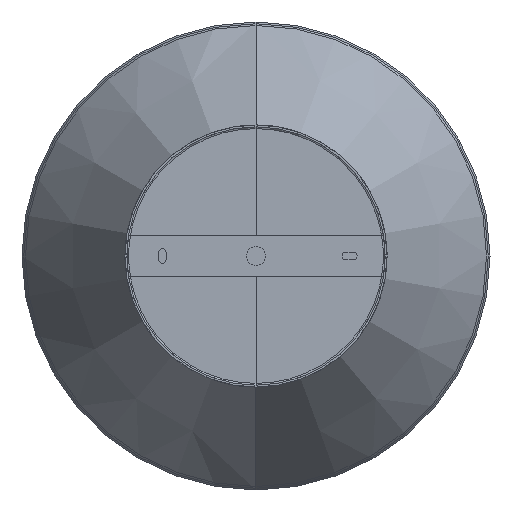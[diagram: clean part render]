
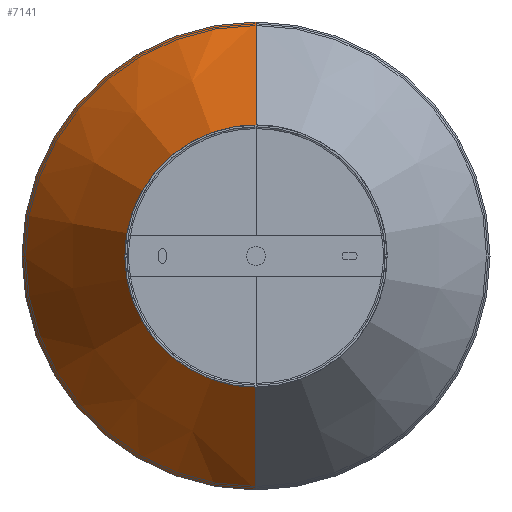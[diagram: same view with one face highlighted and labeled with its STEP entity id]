
A CAD part, front view. The second image highlights one B-rep face of the part: STEP entity #7141.
In plain terms, the highlighted conical face has half-angle 30.865 degrees and reference radius 33.019 mm.
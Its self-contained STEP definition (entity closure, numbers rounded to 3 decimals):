
#83=CONICAL_SURFACE('',#7702,33.019,0.539);
#906=FACE_OUTER_BOUND('',#1287,.T.);
#1287=EDGE_LOOP('',(#6692,#6693,#6694,#6695));
#1481=CIRCLE('',#7699,125.);
#1483=CIRCLE('',#7703,22.799);
#2194=LINE('',#12380,#2901);
#2195=LINE('',#12383,#2902);
#2901=VECTOR('',#9509,304.8);
#2902=VECTOR('',#9512,304.8);
#3579=VERTEX_POINT('',#12371);
#3580=VERTEX_POINT('',#12373);
#3581=VERTEX_POINT('',#12379);
#3582=VERTEX_POINT('',#12381);
#4617=EDGE_CURVE('',#3580,#3579,#1481,.T.);
#4620=EDGE_CURVE('',#3581,#3579,#2194,.T.);
#4621=EDGE_CURVE('',#3582,#3581,#1483,.T.);
#4622=EDGE_CURVE('',#3580,#3582,#2195,.T.);
#6692=ORIENTED_EDGE('',*,*,#4620,.F.);
#6693=ORIENTED_EDGE('',*,*,#4621,.F.);
#6694=ORIENTED_EDGE('',*,*,#4622,.F.);
#6695=ORIENTED_EDGE('',*,*,#4617,.T.);
#7141=ADVANCED_FACE('',(#906),#83,.T.);
#7699=AXIS2_PLACEMENT_3D('',#12374,#9500,#9501);
#7702=AXIS2_PLACEMENT_3D('',#12378,#9507,#9508);
#7703=AXIS2_PLACEMENT_3D('',#12382,#9510,#9511);
#9500=DIRECTION('center_axis',(0.,0.,-1.));
#9501=DIRECTION('ref_axis',(-0.588,-0.809,0.));
#9507=DIRECTION('center_axis',(0.,0.,
1.));
#9508=DIRECTION('ref_axis',(1.,0.,0.));
#9509=DIRECTION('',(0.,-0.513,0.858));
#9510=DIRECTION('center_axis',(0.,0.,
-1.));
#9511=DIRECTION('ref_axis',(-0.588,-0.809,0.));
#9512=DIRECTION('',(0.,-0.513,-0.858));
#12371=CARTESIAN_POINT('',(0.,-125.,305.));
#12373=CARTESIAN_POINT('',(0.,125.,305.));
#12374=CARTESIAN_POINT('Origin',(0.,0.,
305.));
#12378=CARTESIAN_POINT('Origin',(0.,0.,
151.1));
#12379=CARTESIAN_POINT('',(0.,-22.799,134.));
#12380=CARTESIAN_POINT('',(0.,-22.799,134.));
#12381=CARTESIAN_POINT('',(0.,22.799,134.));
#12382=CARTESIAN_POINT('Origin',(0.,0.,
134.));
#12383=CARTESIAN_POINT('',(0.,125.,305.));
